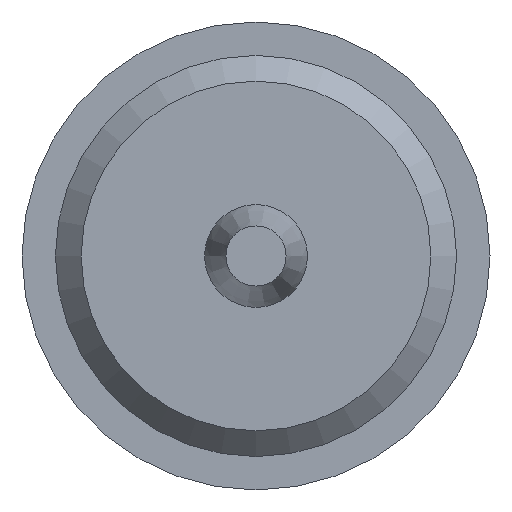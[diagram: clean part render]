
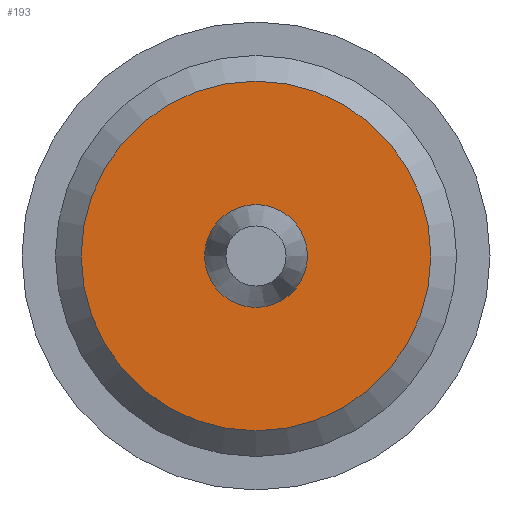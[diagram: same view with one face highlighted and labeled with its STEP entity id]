
A CAD part, left-side view. The second image highlights one B-rep face of the part: STEP entity #193.
In plain terms, the highlighted planar face has unit normal (-1, 0, 0).
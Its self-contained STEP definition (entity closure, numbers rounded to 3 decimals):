
#21=PLANE($,#226);
#37=FACE_BOUND($,#80,.T.);
#38=FACE_BOUND($,#81,.T.);
#80=EDGE_LOOP($,(#160));
#81=EDGE_LOOP($,(#161));
#99=CIRCLE($,#225,1.727);
#100=CIRCLE($,#227,0.508);
#115=VERTEX_POINT($,#339);
#116=VERTEX_POINT($,#342);
#131=EDGE_CURVE($,#115,#115,#99,.T.);
#132=EDGE_CURVE($,#116,#116,#100,.T.);
#160=ORIENTED_EDGE($,*,*,#132,.T.);
#161=ORIENTED_EDGE($,*,*,#131,.F.);
#193=ADVANCED_FACE($,(#37,#38),#21,.T.);
#225=AXIS2_PLACEMENT_3D($,#340,#285,#286);
#226=AXIS2_PLACEMENT_3D($,#341,#287,#288);
#227=AXIS2_PLACEMENT_3D($,#343,#289,#290);
#285=DIRECTION('center_axis',(1.,0.,0.));
#286=DIRECTION('ref_axis',(0.,-1.,0.));
#287=DIRECTION('center_axis',(-1.,0.,0.));
#288=DIRECTION('ref_axis',(0.,0.,1.));
#289=DIRECTION('center_axis',(1.,0.,0.));
#290=DIRECTION('ref_axis',(0.,0.,-1.));
#339=CARTESIAN_POINT('',(4.775,1.727,0.));
#340=CARTESIAN_POINT('Origin',(4.775,0.,0.));
#341=CARTESIAN_POINT('Origin',(4.775,1.981,0.));
#342=CARTESIAN_POINT('',(4.775,0.508,0.));
#343=CARTESIAN_POINT('Origin',(4.775,0.,0.));
